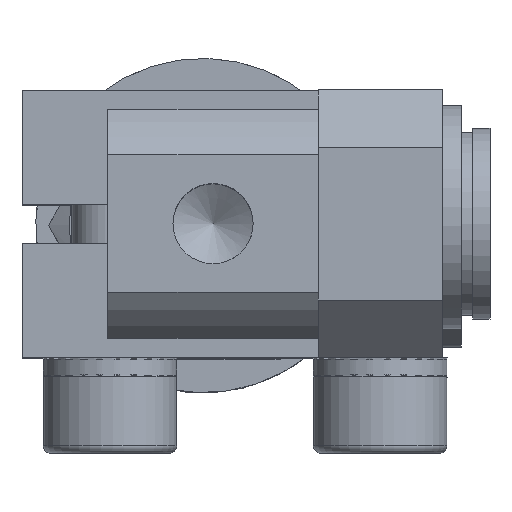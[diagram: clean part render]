
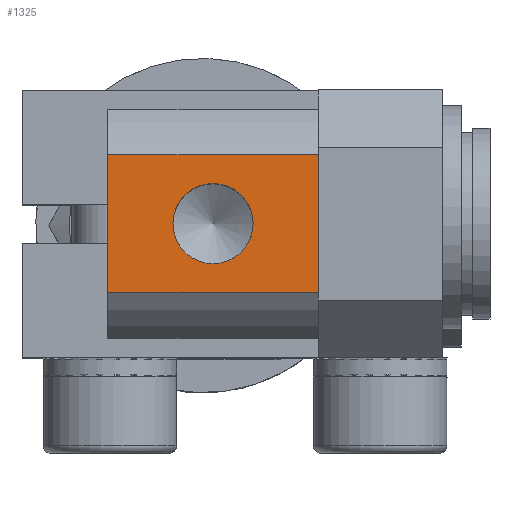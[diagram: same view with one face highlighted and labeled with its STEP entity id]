
A CAD part, top view. The second image highlights one B-rep face of the part: STEP entity #1325.
In plain terms, the highlighted planar face has unit normal (0, 0, 1) as drawn and (0, -1, 0) by its records, which use the part's own axes.
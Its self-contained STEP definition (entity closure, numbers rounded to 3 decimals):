
#1325=ADVANCED_FACE('',(#2584,#2585),#2586,.T.);
#2584=FACE_BOUND('',#3822,.T.);
#2585=FACE_OUTER_BOUND('',#3823,.T.);
#2586=PLANE('',#3824);
#3822=EDGE_LOOP('',(#6856));
#3823=EDGE_LOOP('',(#6857,#6858,#6859,#6860));
#3824=AXIS2_PLACEMENT_3D('',#6861,#6862,#6863);
#6856=ORIENTED_EDGE('',*,*,#8397,.T.);
#6857=ORIENTED_EDGE('',*,*,#8421,.F.);
#6858=ORIENTED_EDGE('',*,*,#8422,.T.);
#6859=ORIENTED_EDGE('',*,*,#8423,.T.);
#6860=ORIENTED_EDGE('',*,*,#8415,.T.);
#6861=CARTESIAN_POINT('',(-6.0,-6.0,5.5));
#6862=DIRECTION('',(0.0,-1.0,0.0));
#6863=DIRECTION('',(0.0,0.0,-1.0));
#8397=EDGE_CURVE('',#10211,#10211,#10212,.F.);
#8415=EDGE_CURVE('',#10237,#10242,#10244,.F.);
#8421=EDGE_CURVE('',#10251,#10242,#10252,.T.);
#8422=EDGE_CURVE('',#10251,#10253,#10254,.T.);
#8423=EDGE_CURVE('',#10253,#10237,#10255,.T.);
#10211=VERTEX_POINT('',#12747);
#10212=CIRCLE('',#12748,2.1);
#10237=VERTEX_POINT('',#12810);
#10242=VERTEX_POINT('',#12816);
#10244=LINE('',#12818,#12819);
#10251=VERTEX_POINT('',#12826);
#10252=LINE('',#12827,#12828);
#10253=VERTEX_POINT('',#12829);
#10254=LINE('',#12830,#12831);
#10255=LINE('',#12832,#12833);
#12747=CARTESIAN_POINT('',(0.,-6.0,-2.1));
#12748=AXIS2_PLACEMENT_3D('',#14593,#14594,#14595);
#12810=CARTESIAN_POINT('',(-3.606,-6.0,5.5));
#12816=CARTESIAN_POINT('',(-3.606,-6.0,-5.5));
#12818=CARTESIAN_POINT('',(-3.606,-6.0,-57.0));
#12819=VECTOR('',#14622,1.0);
#12826=CARTESIAN_POINT('',(3.606,-6.0,-5.5));
#12827=CARTESIAN_POINT('',(-6.0,-6.0,-5.5));
#12828=VECTOR('',#14629,1.0);
#12829=CARTESIAN_POINT('',(3.606,-6.0,5.5));
#12830=CARTESIAN_POINT('',(3.606,-6.0,-57.0));
#12831=VECTOR('',#14630,1.0);
#12832=CARTESIAN_POINT('',(-6.0,-6.0,5.5));
#12833=VECTOR('',#14631,1.0);
#14593=CARTESIAN_POINT('',(0.0,-6.0,0.));
#14594=DIRECTION('',(0.0,-1.0,0.0));
#14595=DIRECTION('',(0.0,0.0,-1.0));
#14622=DIRECTION('',(0.0,0.0,1.0));
#14629=DIRECTION('',(-1.0,0.0,0.0));
#14630=DIRECTION('',(0.0,0.0,1.0));
#14631=DIRECTION('',(-1.0,0.0,0.0));
